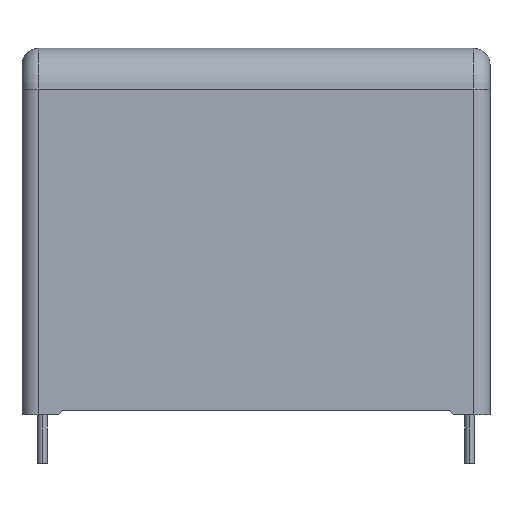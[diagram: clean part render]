
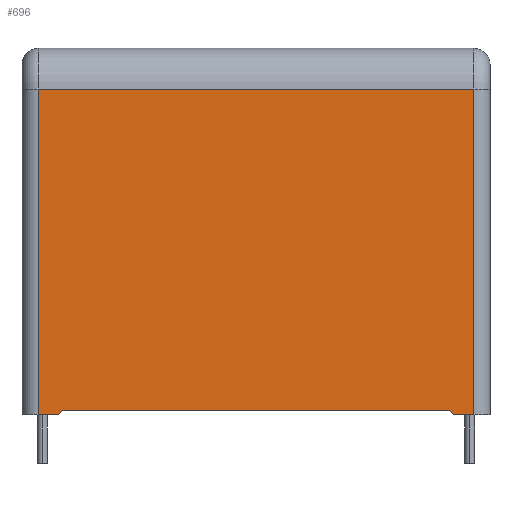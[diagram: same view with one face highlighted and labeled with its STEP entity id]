
A CAD part, top view. The second image highlights one B-rep face of the part: STEP entity #696.
In plain terms, the highlighted planar face has unit normal (0, 0, 1).
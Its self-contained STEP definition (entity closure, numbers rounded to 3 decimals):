
#106 = LINE ( 'NONE', #4059, #144 ) ;
#144 = VECTOR ( 'NONE', #2299, 1000. ) ;
#242 = FACE_OUTER_BOUND ( 'NONE', #1892, .T. ) ;
#272 = EDGE_CURVE ( 'NONE', #3682, #1634, #626, .T. ) ;
#364 = CARTESIAN_POINT ( 'NONE',  ( -23.75, 0.5, 15. ) ) ;
#386 = CARTESIAN_POINT ( 'NONE',  ( 23.75, 0.5, 15. ) ) ;
#477 = VECTOR ( 'NONE', #3757, 1000. ) ;
#601 = VECTOR ( 'NONE', #2360, 1000. ) ;
#626 = LINE ( 'NONE', #2401, #601 ) ;
#696 = ADVANCED_FACE ( 'NONE', ( #242 ), #1980, .F. ) ;
#742 = VERTEX_POINT ( 'NONE', #3236 ) ;
#766 = VERTEX_POINT ( 'NONE', #2846 ) ;
#989 = ORIENTED_EDGE ( 'NONE', *, *, #3470, .T. ) ;
#997 = LINE ( 'NONE', #1246, #477 ) ;
#1246 = CARTESIAN_POINT ( 'NONE',  ( -28.75, 40., 15. ) ) ;
#1263 = VECTOR ( 'NONE', #2847, 1000. ) ;
#1411 = VERTEX_POINT ( 'NONE', #3940 ) ;
#1430 = VERTEX_POINT ( 'NONE', #3644 ) ;
#1452 = ORIENTED_EDGE ( 'NONE', *, *, #3284, .T. ) ;
#1634 = VERTEX_POINT ( 'NONE', #3685 ) ;
#1652 = DIRECTION ( 'NONE',  ( -0.707, 0.707, 0. ) ) ;
#1701 = LINE ( 'NONE', #2536, #1263 ) ;
#1711 = DIRECTION ( 'NONE',  ( -1., 0., 0. ) ) ;
#1715 = DIRECTION ( 'NONE',  ( 0., 0., -1. ) ) ;
#1740 = ORIENTED_EDGE ( 'NONE', *, *, #2732, .T. ) ;
#1892 = EDGE_LOOP ( 'NONE', ( #3577, #3707, #3830, #3964, #989, #1452, #1740, #1905 ) ) ;
#1905 = ORIENTED_EDGE ( 'NONE', *, *, #272, .F. ) ;
#1980 = PLANE ( 'NONE',  #2351 ) ;
#2002 = CARTESIAN_POINT ( 'NONE',  ( -28.75, 45., 15. ) ) ;
#2040 = DIRECTION ( 'NONE',  ( 1., 0., 0. ) ) ;
#2204 = LINE ( 'NONE', #4177, #2387 ) ;
#2299 = DIRECTION ( 'NONE',  ( 0., 1., 0. ) ) ;
#2313 = VECTOR ( 'NONE', #4137, 1000. ) ;
#2351 = AXIS2_PLACEMENT_3D ( 'NONE', #2002, #1715, #1711 ) ;
#2360 = DIRECTION ( 'NONE',  ( -0.707, -0.707, 0. ) ) ;
#2387 = VECTOR ( 'NONE', #3054, 1000. ) ;
#2401 = CARTESIAN_POINT ( 'NONE',  ( -24.25, 0., 15. ) ) ;
#2478 = VECTOR ( 'NONE', #2040, 1000. ) ;
#2506 = VERTEX_POINT ( 'NONE', #2706 ) ;
#2536 = CARTESIAN_POINT ( 'NONE',  ( -26.75, 45., 15. ) ) ;
#2706 = CARTESIAN_POINT ( 'NONE',  ( 24.25, 0., 15. ) ) ;
#2732 = EDGE_CURVE ( 'NONE', #1430, #1634, #2926, .T. ) ;
#2832 = EDGE_CURVE ( 'NONE', #2506, #2925, #2204, .T. ) ;
#2846 = CARTESIAN_POINT ( 'NONE',  ( 26.75, 40., 15. ) ) ;
#2847 = DIRECTION ( 'NONE',  ( 0., -1., 0. ) ) ;
#2925 = VERTEX_POINT ( 'NONE', #3355 ) ;
#2926 = LINE ( 'NONE', #3316, #2478 ) ;
#3054 = DIRECTION ( 'NONE',  ( 1., 0., 0. ) ) ;
#3138 = LINE ( 'NONE', #3569, #2313 ) ;
#3236 = CARTESIAN_POINT ( 'NONE',  ( 23.75, 0.5, 15. ) ) ;
#3284 = EDGE_CURVE ( 'NONE', #1411, #1430, #1701, .T. ) ;
#3316 = CARTESIAN_POINT ( 'NONE',  ( -28.75, 0., 15. ) ) ;
#3355 = CARTESIAN_POINT ( 'NONE',  ( 26.75, 0., 15. ) ) ;
#3470 = EDGE_CURVE ( 'NONE', #766, #1411, #997, .T. ) ;
#3569 = CARTESIAN_POINT ( 'NONE',  ( -23.75, 0.5, 15. ) ) ;
#3577 = ORIENTED_EDGE ( 'NONE', *, *, #4040, .F. ) ;
#3644 = CARTESIAN_POINT ( 'NONE',  ( -26.75, 0., 15. ) ) ;
#3658 = EDGE_CURVE ( 'NONE', #2925, #766, #106, .T. ) ;
#3682 = VERTEX_POINT ( 'NONE', #364 ) ;
#3685 = CARTESIAN_POINT ( 'NONE',  ( -24.25, 0., 15. ) ) ;
#3707 = ORIENTED_EDGE ( 'NONE', *, *, #3853, .F. ) ;
#3708 = LINE ( 'NONE', #386, #4126 ) ;
#3757 = DIRECTION ( 'NONE',  ( -1., 0., 0. ) ) ;
#3830 = ORIENTED_EDGE ( 'NONE', *, *, #2832, .T. ) ;
#3853 = EDGE_CURVE ( 'NONE', #2506, #742, #3708, .T. ) ;
#3940 = CARTESIAN_POINT ( 'NONE',  ( -26.75, 40., 15. ) ) ;
#3964 = ORIENTED_EDGE ( 'NONE', *, *, #3658, .T. ) ;
#4040 = EDGE_CURVE ( 'NONE', #742, #3682, #3138, .T. ) ;
#4059 = CARTESIAN_POINT ( 'NONE',  ( 26.75, 45., 15. ) ) ;
#4126 = VECTOR ( 'NONE', #1652, 1000. ) ;
#4137 = DIRECTION ( 'NONE',  ( -1., 0., 0. ) ) ;
#4177 = CARTESIAN_POINT ( 'NONE',  ( -28.75, 0., 15. ) ) ;
